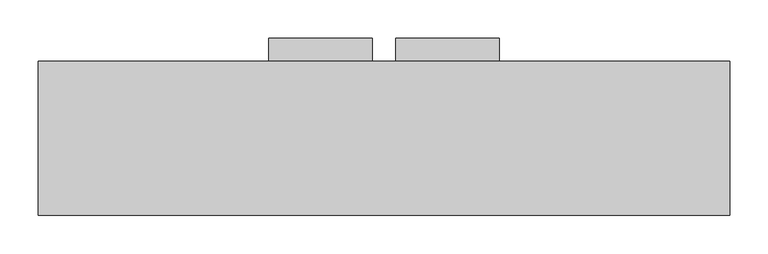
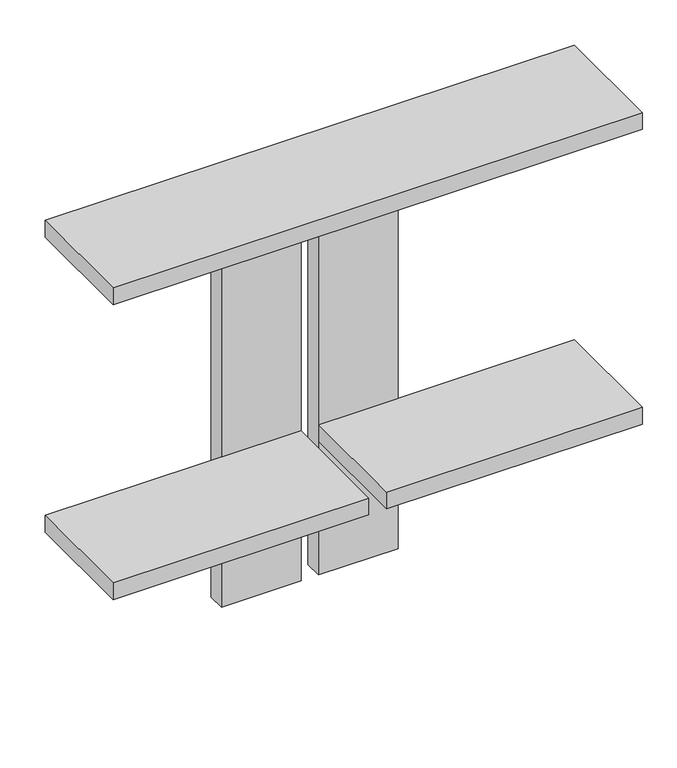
"""IFC4 building model written with IfcOpenShell, lengths in millimetres: proxy geometry, 常规模型 1 : 常规模型 1."""

from ifc_helpers import new_model, si_unit, frame, origin, place, context, project, spatial, polyline, outline, extrude, source, transform, mapped, element, save


def generic_models_2490e22a(model_context):
    return source(origin(), model_context, "Body", "SweptSolid", [
        extrude(outline(polyline([(-11876.2784663, 4416.3036296), (-11876.2784663, 4446.3036296), (-11741.2784663, 4446.3036296), (-11741.2784663, 4416.3036296), (-11876.2784663, 4416.3036296)])), frame((0.0, 0.0, 2230.0), z_axis=(0.0, 0.0, 1.0), x_axis=(1.0, 0.0, 0.0)), (0.0, 0.0, 1.0), 740.0),
        extrude(outline(polyline([(-11576.2784663, 4416.3036296), (-11711.2784663, 4416.3036296), (-11711.2784663, 4446.3036296), (-11576.2784663, 4446.3036296), (-11576.2784663, 4416.3036296)])), frame((0.0, 0.0, 2230.0), z_axis=(0.0, 0.0, 1.0), x_axis=(1.0, 0.0, 0.0)), (0.0, 0.0, 1.0), 740.0),
        extrude(outline(polyline([(-11711.2784663, 4416.3036296), (-11276.2784663, 4416.3036296), (-11276.2784663, 4216.3036296), (-11711.2784663, 4216.3036296), (-11711.2784663, 4416.3036296)])), frame((0.0, 0.0, 2470.0), z_axis=(0.0, 0.0, 1.0), x_axis=(1.0, 0.0, 0.0)), (0.0, 0.0, 1.0), 30.0),
        extrude(outline(polyline([(-11741.2784663, 4416.3036296), (-11741.2784663, 4216.3036296), (-12176.2784663, 4216.3036296), (-12176.2784663, 4416.3036296), (-11741.2784663, 4416.3036296)])), frame((0.0, 0.0, 2470.0), z_axis=(0.0, 0.0, 1.0), x_axis=(1.0, 0.0, 0.0)), (0.0, 0.0, 1.0), 30.0),
        extrude(outline(polyline([(-11276.2784663, 4416.3036296), (-11276.2784663, 4216.3036296), (-12176.2784663, 4216.3036296), (-12176.2784663, 4416.3036296), (-11276.2784663, 4416.3036296)])), frame((0.0, 0.0, 3000.0), z_axis=(0.0, 0.0, 1.0), x_axis=(1.0, 0.0, 0.0)), (0.0, 0.0, 1.0), 30.0),
    ])


if __name__ == "__main__":
    model = new_model("IFC4")
    model_context = context("Model", 3, world=origin())
    ifc_project = project(units=[si_unit("LENGTHUNIT", "METRE", prefix="MILLI")], contexts=[model_context])
    site = spatial("IfcSite", under=ifc_project)
    building = spatial("IfcBuilding", under=site)
    placement = place(None, origin())
    generic_models_shape = generic_models_2490e22a(model_context)
    element("IfcBuildingElementProxy", 1, Name="常规模型 1 : 常规模型 1", ObjectType="常规模型 1 : 常规模型 1", at=placement, inside=building, context=model_context, shape_type="MappedRepresentation", body=[
        mapped(generic_models_shape, transform((0.0, 0.0, 0.0), x_axis=(1.0, 0.0, 0.0), y_axis=(0.0, 1.0, 0.0), z_axis=(0.0, 0.0, 1.0))),
    ])
    save(model, "model.ifc")
